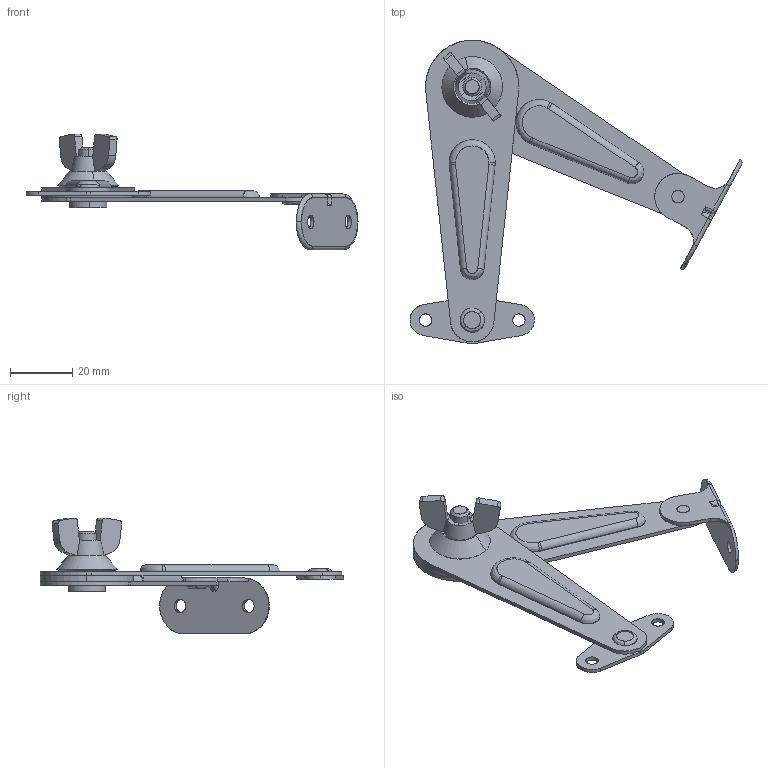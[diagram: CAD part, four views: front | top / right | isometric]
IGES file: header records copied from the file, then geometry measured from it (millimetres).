
Start section: SolidWorks IGES file using analytic representation for surfaces
Global section: file name: C:\Users\cbrechard\Desktop\BA 850.IGS; native system: SolidWorks 2017; preprocessor: SolidWorks 2017; author: cbrechard; date: 191029.172444; units: millimetre
Bounding box: 106.75 x 97.59 x 37.28 mm (x, y, z)
Surface area: 16206.5 mm2 (no closed solid volume)
Topology: 0 solids, 0 shells, 209 faces, 2912 edges, 2910 vertices
Faces by surface type: revolution 112, bspline 97
